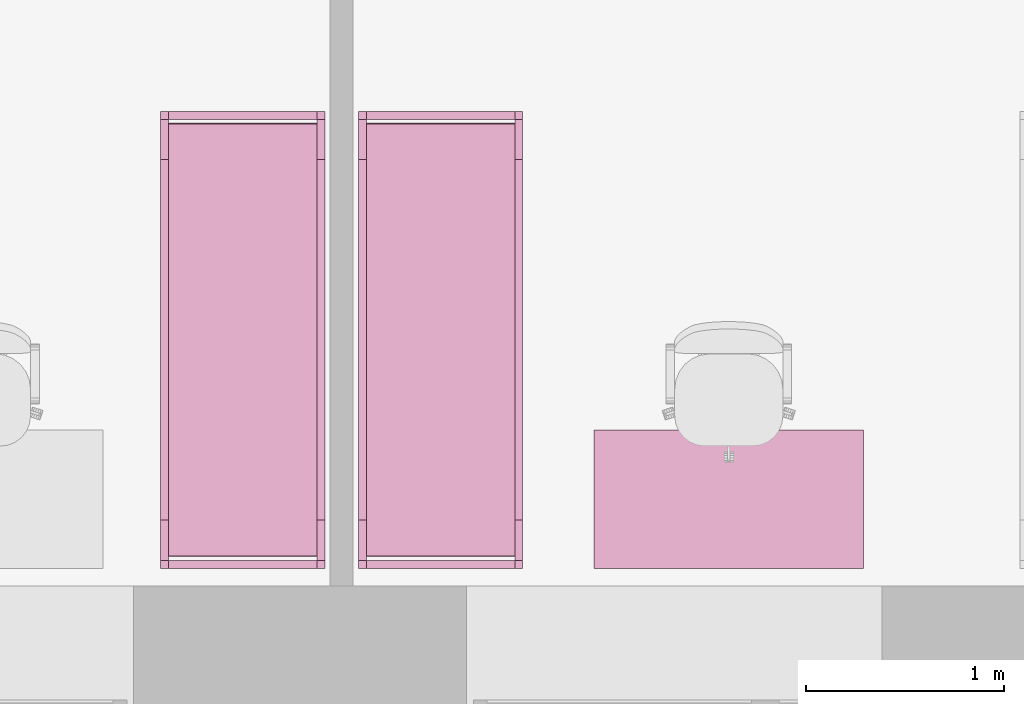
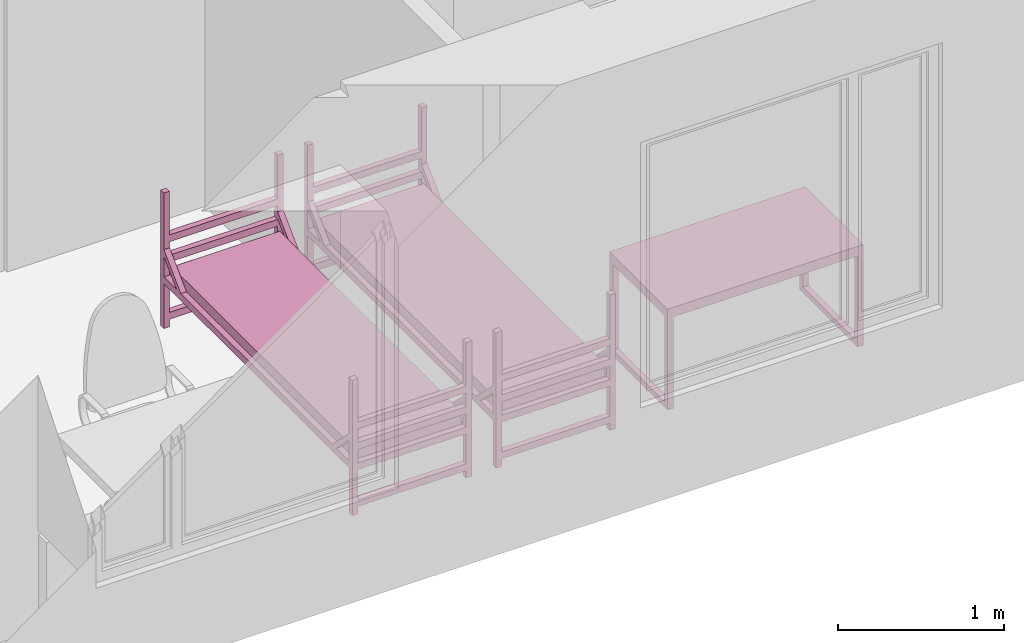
# One storey, part 30 of 46: 3 furnishings.
"""IFC2X3 building model written with IfcOpenShell, lengths in millimetres."""

from ifc_helpers import new_model, entity, si_unit, converted_unit, derived_unit, direction, frame, frame_2d, origin, origin_2d_with_axis, place, context, subcontext, project, spatial, polyline, circle_curve, parameter, trimmed, segment, composite_curve, rectangle, outline, extrude, faceted_brep, source, transform, mapped, material, material_list, type_object, type_shapes, element, save


model = new_model("IFC2X3")

# Units and contexts
model_context = context("Model", 3, precision=0.01, world=origin(), true_north=direction((6.12303176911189e-17, 1.0)))
body_context = subcontext(model_context, "Body", "Model", "MODEL_VIEW")
ifc_project = project(units=[si_unit("LENGTHUNIT", "METRE", prefix="MILLI"), si_unit("AREAUNIT", "SQUARE_METRE"), si_unit("VOLUMEUNIT", "CUBIC_METRE"), converted_unit("PLANEANGLEUNIT", "DEGREE", entity("IfcRatioMeasure", 0.0174532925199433), si_unit("PLANEANGLEUNIT", "RADIAN"), dimensions=[0, 0, 0, 0, 0, 0, 0]), si_unit("MASSUNIT", "GRAM", prefix="KILO"), derived_unit("MASSDENSITYUNIT", [(si_unit("MASSUNIT", "GRAM", prefix="KILO"), 1), (si_unit("LENGTHUNIT", "METRE"), -3)]), si_unit("TIMEUNIT", "SECOND"), si_unit("FREQUENCYUNIT", "HERTZ"), si_unit("THERMODYNAMICTEMPERATUREUNIT", "DEGREE_CELSIUS"), derived_unit("THERMALTRANSMITTANCEUNIT", [(si_unit("MASSUNIT", "GRAM", prefix="KILO"), 1), (si_unit("THERMODYNAMICTEMPERATUREUNIT", "KELVIN"), -1), (si_unit("TIMEUNIT", "SECOND"), -3)]), derived_unit("VOLUMETRICFLOWRATEUNIT", [(si_unit("LENGTHUNIT", "METRE"), 3), (si_unit("TIMEUNIT", "SECOND"), -1)]), si_unit("ELECTRICCURRENTUNIT", "AMPERE"), si_unit("ELECTRICVOLTAGEUNIT", "VOLT"), si_unit("POWERUNIT", "WATT"), si_unit("FORCEUNIT", "NEWTON", prefix="KILO"), si_unit("ILLUMINANCEUNIT", "LUX"), si_unit("LUMINOUSFLUXUNIT", "LUMEN"), si_unit("LUMINOUSINTENSITYUNIT", "CANDELA"), derived_unit("USERDEFINED", [(si_unit("MASSUNIT", "GRAM", prefix="KILO"), -1), (si_unit("LENGTHUNIT", "METRE"), -2), (si_unit("TIMEUNIT", "SECOND"), 3), (si_unit("LUMINOUSFLUXUNIT", "LUMEN"), 1)]), derived_unit("LINEARVELOCITYUNIT", [(si_unit("LENGTHUNIT", "METRE"), 1), (si_unit("TIMEUNIT", "SECOND"), -1)]), si_unit("PRESSUREUNIT", "PASCAL"), derived_unit("USERDEFINED", [(si_unit("LENGTHUNIT", "METRE"), -2), (si_unit("MASSUNIT", "GRAM", prefix="KILO"), 1), (si_unit("TIMEUNIT", "SECOND"), -2)]), derived_unit("LINEARFORCEUNIT", [(si_unit("MASSUNIT", "GRAM", prefix="KILO"), 1), (si_unit("LENGTHUNIT", "METRE"), 1), (si_unit("TIMEUNIT", "SECOND"), -2), (si_unit("LENGTHUNIT", "METRE"), -1)]), derived_unit("PLANARFORCEUNIT", [(si_unit("MASSUNIT", "GRAM", prefix="KILO"), 1), (si_unit("LENGTHUNIT", "METRE"), 1), (si_unit("TIMEUNIT", "SECOND"), -2), (si_unit("LENGTHUNIT", "METRE"), -2)])], contexts=[model_context])

# Site, building, storey, space
site_placement = place(None, origin())
site = spatial("IfcSite", under=ifc_project, at=site_placement, Name="Default", CompositionType="ELEMENT")
building_placement = place(site_placement, origin())
building = spatial("IfcBuilding", under=site, at=building_placement, Name="SMA ARH", CompositionType="ELEMENT")
storey_placement = place(building_placement, origin())
storey = spatial("IfcBuildingStorey", under=building, at=storey_placement, Name="1 Korrus", CompositionType="ELEMENT", Elevation=0.0)
space_1_placement = place(storey_placement, origin())
space_1 = spatial("IfcSpace", under=storey, at=space_1_placement, Name="1-12", CompositionType="ELEMENT", InteriorOrExteriorSpace="INTERNAL")

# Furnishings
ifc_material_1 = material(Name="Madrats")
furniture_type_1 = type_object("IfcFurnitureType", Name="Kasarmu voodi ühekordne 2308x830:Kasarmu voodi ühekordne 2308x830", material=ifc_material_1)
shared_shape_1 = source(origin(), body_context, "Body", "SweptSolid", [
    extrude(rectangle(XDim=39.9999999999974, YDim=750.000000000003, at=frame_2d((-1.35003119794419e-13, -2.8421709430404e-14), x_axis=(1.0, 0.0))), frame((1.68638457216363, -1226.7969571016, 55.0), z_axis=(0.0, 0.0, 1.0), x_axis=(0.0, -1.0, 0.0)), (0.0, 0.0, 1.0), 49.9999999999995),
    extrude(rectangle(XDim=39.9999999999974, YDim=750.000000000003, at=frame_2d((-1.35003119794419e-13, -2.8421709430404e-14), x_axis=(1.0, 0.0))), frame((1.68638457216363, -1226.7969571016, 325.0), z_axis=(0.0, 0.0, 1.0), x_axis=(0.0, -1.0, 0.0)), (0.0, 0.0, 1.0), 49.9999999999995),
    extrude(rectangle(XDim=39.9999999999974, YDim=750.000000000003, at=frame_2d((-1.35003119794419e-13, -2.8421709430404e-14), x_axis=(1.0, 0.0))), frame((1.68638457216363, -1226.7969571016, 475.0), z_axis=(0.0, 0.0, 1.0), x_axis=(0.0, -1.0, 0.0)), (0.0, 0.0, 1.0), 49.9999999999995),
    extrude(rectangle(XDim=39.9999999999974, YDim=750.000000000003, at=frame_2d((-1.35003119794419e-13, -2.8421709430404e-14), x_axis=(1.0, 0.0))), frame((1.68638457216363, -1226.7969571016, 625.0), z_axis=(0.0, 0.0, 1.0), x_axis=(0.0, -1.0, 0.0)), (0.0, 0.0, 1.0), 50.0000000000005),
    extrude(rectangle(XDim=39.9999999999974, YDim=750.000000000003, at=frame_2d((1.35003119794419e-13, -2.8421709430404e-14), x_axis=(1.0, 0.0))), frame((1.68638457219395, 1041.2030428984, 55.0), z_axis=(0.0, 0.0, 1.0), x_axis=(0.0, -1.0, 0.0)), (0.0, 0.0, 1.0), 50.0000000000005),
    extrude(rectangle(XDim=39.9999999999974, YDim=750.000000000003, at=frame_2d((1.35003119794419e-13, -2.8421709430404e-14), x_axis=(1.0, 0.0))), frame((1.68638457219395, 1041.2030428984, 325.0), z_axis=(0.0, 0.0, 1.0), x_axis=(0.0, -1.0, 0.0)), (0.0, 0.0, 1.0), 50.0000000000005),
    extrude(rectangle(XDim=39.9999999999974, YDim=750.000000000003, at=frame_2d((1.35003119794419e-13, -2.8421709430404e-14), x_axis=(1.0, 0.0))), frame((1.68638457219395, 1041.2030428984, 475.0), z_axis=(0.0, 0.0, 1.0), x_axis=(0.0, -1.0, 0.0)), (0.0, 0.0, 1.0), 50.0000000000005),
    extrude(rectangle(XDim=39.9999999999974, YDim=750.000000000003, at=frame_2d((1.35003119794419e-13, -2.8421709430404e-14), x_axis=(1.0, 0.0))), frame((1.68638457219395, 1041.2030428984, 625.0), z_axis=(0.0, 0.0, 1.0), x_axis=(0.0, -1.0, 0.0)), (0.0, 0.0, 1.0), 49.9999999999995),
    extrude(outline(composite_curve([segment(trimmed(circle_curve(frame_2d((1085.0, -40.0), x_axis=(1.0, 0.0)), 10.0), [parameter(270.0)], [parameter(0.0)], True, "PARAMETER"), True, "CONTINUOUS"), segment(polyline([(1095.0, -40.0), (1095.0, 40.0)]), True, "CONTINUOUS"), segment(trimmed(circle_curve(frame_2d((1085.0, 40.0), x_axis=(1.0, 0.0)), 10.0), [parameter(0.0)], [parameter(90.0000000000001)], True, "PARAMETER"), True, "CONTINUOUS"), segment(polyline([(1085.0, 50.0), (-1085.0, 50.0)]), True, "CONTINUOUS"), segment(trimmed(circle_curve(frame_2d((-1085.0, 40.0), x_axis=(1.0, 0.0)), 10.0), [parameter(90.0000000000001)], [parameter(180.0)], True, "PARAMETER"), True, "CONTINUOUS"), segment(polyline([(-1095.0, 40.0), (-1095.0, -40.0)]), True, "CONTINUOUS"), segment(trimmed(circle_curve(frame_2d((-1085.0, -40.0), x_axis=(1.0, 0.0)), 10.0), [parameter(180.0)], [parameter(270.0)], True, "PARAMETER"), True, "CONTINUOUS"), segment(polyline([(-1085.0, -50.0), (1085.0, -50.0)]), True, "CONTINUOUS")], self_intersect=False)), frame((-373.313615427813, -92.7969571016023, 405.0), z_axis=(1.0, 0.0, 0.0), x_axis=(0.0, -1.0, 0.0)), (0.0, 0.0, 1.0), 750.000000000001),
    extrude(outline(polyline([(-1114.0, -100.0), (1114.0, -100.0), (1114.0, -50.0), (961.59199141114, -50.0), (1114.0, 100.0), (1114.0, 150.0), (910.789321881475, -50.0), (-910.789321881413, -50.0), (-1114.0, 150.0), (-1114.0, 100.0), (-961.591991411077, -50.0), (-1114.0, -50.0), (-1114.0, -100.0)])), frame((-413.313615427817, -92.7969571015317, 430.0), z_axis=(1.0, 0.0, 0.0), x_axis=(0.0, 1.0, 0.0)), (0.0, 0.0, 1.0), 39.9999999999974),
    extrude(outline(polyline([(-1114.0, -100.0), (1114.0, -100.0), (1114.0, -50.0), (961.591991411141, -50.0), (1114.0, 100.0), (1114.0, 150.0), (910.789321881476, -50.0), (-910.789321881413, -50.0), (-1114.0, 150.0), (-1114.0, 100.0), (-961.591991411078, -50.0), (-1114.0, -50.0), (-1114.0, -100.0)])), frame((376.686384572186, -92.796957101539, 430.0), z_axis=(1.0, 0.0, 0.0), x_axis=(0.0, 1.0, 0.0)), (0.0, 0.0, 1.0), 39.9999999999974),
    extrude(rectangle(XDim=39.9999999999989, YDim=39.9999999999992, at=frame_2d((-6.75015598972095e-14, 0.0), x_axis=(1.0, 0.0))), frame((396.686384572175, -1226.79695710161, 0.0), z_axis=(0.0, 0.0, 1.0), x_axis=(0.0, 1.0, 0.0)), (0.0, 0.0, 1.0), 995.0),
    extrude(rectangle(XDim=39.9999999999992, YDim=39.9999999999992, at=frame_2d((-1.35003119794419e-13, 0.0), x_axis=(1.0, 0.0))), frame((396.686384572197, 1041.20304289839, 0.0), z_axis=(0.0, 0.0, 1.0), x_axis=(0.0, 1.0, 0.0)), (0.0, 0.0, 1.0), 995.0),
    extrude(rectangle(XDim=40.0000000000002, YDim=39.9999999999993, at=frame_2d((-1.35003119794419e-13, 0.0), x_axis=(1.0, 0.0))), frame((-393.313615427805, 1041.2030428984, 0.0), z_axis=(0.0, 0.0, 1.0), x_axis=(0.0, 1.0, 0.0)), (0.0, 0.0, 1.0), 995.0),
    extrude(rectangle(XDim=39.9999999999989, YDim=39.9999999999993, at=frame_2d((-6.75015598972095e-14, 0.0), x_axis=(1.0, 0.0))), frame((-393.313615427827, -1226.7969571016, 0.0), z_axis=(0.0, 0.0, 1.0), x_axis=(0.0, 1.0, 0.0)), (0.0, 0.0, 1.0), 995.0),
])
type_shapes(furniture_type_1, [shared_shape_1])
furnishing_1_placement = place(space_1_placement, frame((12427.8136154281, 1336.79695710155, 0.0)))
element("IfcFurnishingElement", 1, at=furnishing_1_placement, inside=space_1, type_object=furniture_type_1, material=ifc_material_1, Name="Kasarmu voodi ühekordne 2308x830:Kasarmu voodi ühekordne 2308x830", ObjectType="Kasarmu voodi ühekordne 2308x830:Kasarmu voodi ühekordne 2308x830", context=body_context, shape_type="MappedRepresentation", body=[
    mapped(shared_shape_1, transform((0.0, 0.0, 0.0), scale=1.0)),
])
ifc_material_2 = material(Name="<Unnamed>")
ifc_material_list = material_list([ifc_material_2, ifc_material_2])
furniture_type_2 = type_object("IfcFurnitureType", Name="kirjutuslaud 1360x700mm:kirjutuslaud 1360x700mm", material=ifc_material_list)
shared_shape_2 = source(origin(), body_context, "Body", "Brep", [
    faceted_brep([(680.0, -350.0, 720.0), (680.0, 350.0, 720.0), (680.0, 350.0, 750.0), (680.0, -350.0, 750.0), (-680.0, -350.0, 720.0), (-680.0, -350.0, 750.0), (-680.0, 350.0, 750.0), (-680.0, 350.0, 720.0)], [[[0, 1, 2, 3]], [[4, 5, 6, 7]], [[1, 0, 4, 7]], [[2, 1, 7, 6]], [[3, 2, 6, 5]], [[0, 3, 5, 4]]]),
    faceted_brep([(-640.0, -310.0, 680.0), (-640.0, 310.0, 680.0), (-640.0, 310.0, 720.0), (-640.0, -310.0, 720.0), (-680.0, -350.0, 720.0), (-680.0, 350.0, 720.0), (-680.0, 350.0, 10.0), (-680.0, -350.0, 10.0), (-680.0, 310.0, 680.0), (-680.0, -310.0, 680.0), (-680.0, -310.0, 50.0), (-680.0, 310.0, 50.0), (-640.0, -350.0, 10.0), (-640.0, -350.0, 680.0), (640.0, -350.0, 680.0), (640.0, -350.0, 10.0), (680.0, -350.0, 10.0), (680.0, -350.0, 720.0), (-640.0, 350.0, 10.0), (680.0, 350.0, 720.0), (680.0, 350.0, 10.0), (640.0, 350.0, 10.0), (640.0, 350.0, 680.0), (-640.0, 350.0, 680.0), (640.0, 310.0, 720.0), (640.0, -310.0, 720.0), (-640.0, 310.0, 50.0), (-640.0, -310.0, 50.0), (640.0, -310.0, 680.0), (640.0, 310.0, 680.0), (680.0, 310.0, 680.0), (680.0, 310.0, 50.0), (680.0, -310.0, 50.0), (680.0, -310.0, 680.0), (640.0, -310.0, 50.0), (640.0, 310.0, 50.0)], [[[0, 1, 2, 3]], [[4, 5, 6, 7], [8, 9, 10, 11]], [[4, 7, 12, 13, 14, 15, 16, 17]], [[18, 12, 7, 6]], [[6, 5, 19, 20, 21, 22, 23, 18]], [[19, 5, 4, 17], [2, 24, 25, 3]], [[26, 1, 8, 11]], [[27, 26, 11, 10]], [[0, 27, 10, 9]], [[1, 0, 9, 8]], [[14, 13, 0, 28]], [[24, 2, 1, 29]], [[3, 25, 28, 0]], [[17, 16, 20, 19], [30, 31, 32, 33]], [[21, 15, 14, 28, 34, 35, 29, 22]], [[20, 16, 15, 21]], [[31, 30, 29, 35]], [[32, 31, 35, 34]], [[33, 32, 34, 28]], [[30, 33, 28, 29]], [[29, 28, 25, 24]], [[29, 1, 23, 22]], [[12, 18, 23, 1, 26, 27, 0, 13]]]),
    faceted_brep([(-663.729456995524, -270.466136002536, 0.0), (-659.847171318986, -269.955023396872, 0.0), (-655.964885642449, -270.466136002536, 0.0), (-652.347171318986, -271.964642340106, 0.0), (-649.240569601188, -274.348421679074, 0.0), (-646.85679026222, -277.455023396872, 0.0), (-645.35828392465, -281.072737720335, 0.0), (-644.847171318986, -284.955023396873, 0.0), (-645.35828392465, -288.83730907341, 0.0), (-646.85679026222, -292.455023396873, 0.0), (-649.240569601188, -295.561625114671, 0.0), (-652.347171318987, -297.945404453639, 0.0), (-655.964885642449, -299.443910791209, 0.0), (-659.847171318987, -299.955023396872, 0.0), (-663.729456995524, -299.443910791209, 0.0), (-667.347171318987, -297.945404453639, 0.0), (-670.453773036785, -295.561625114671, 0.0), (-672.837552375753, -292.455023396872, 0.0), (-674.336058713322, -288.83730907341, 0.0), (-674.847171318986, -284.955023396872, 0.0), (-674.336058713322, -281.072737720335, 0.0), (-672.837552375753, -277.455023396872, 0.0), (-670.453773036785, -274.348421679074, 0.0), (-667.347171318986, -271.964642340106, 0.0), (-655.964885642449, -299.443910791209, 10.0), (-652.347171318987, -297.945404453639, 10.0), (-649.240569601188, -295.561625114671, 10.0), (-646.85679026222, -292.455023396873, 10.0), (-645.35828392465, -288.83730907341, 10.0), (-644.847171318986, -284.955023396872, 10.0), (-645.35828392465, -281.072737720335, 10.0), (-646.85679026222, -277.455023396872, 10.0), (-649.240569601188, -274.348421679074, 10.0), (-652.347171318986, -271.964642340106, 10.0), (-655.964885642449, -270.466136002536, 10.0), (-659.847171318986, -269.955023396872, 10.0), (-663.729456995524, -270.466136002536, 10.0), (-667.347171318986, -271.964642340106, 10.0), (-670.453773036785, -274.348421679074, 10.0), (-672.837552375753, -277.455023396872, 10.0), (-674.336058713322, -281.072737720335, 10.0), (-674.847171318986, -284.955023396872, 10.0), (-674.336058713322, -288.83730907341, 10.0), (-672.837552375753, -292.455023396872, 10.0), (-670.453773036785, -295.561625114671, 10.0), (-667.347171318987, -297.945404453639, 10.0), (-663.729456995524, -299.443910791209, 10.0), (-659.847171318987, -299.955023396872, 10.0)], [[[0, 1, 2, 3, 4, 5, 6, 7, 8, 9, 10, 11, 12, 13, 14, 15, 16, 17, 18, 19, 20, 21, 22, 23]], [[24, 25, 26, 27, 28, 29, 30, 31, 32, 33, 34, 35, 36, 37, 38, 39, 40, 41, 42, 43, 44, 45, 46, 47]], [[18, 42, 41, 19]], [[17, 43, 42, 18]], [[45, 44, 16, 15]], [[17, 16, 44, 43]], [[46, 45, 15, 14]], [[47, 46, 14, 13]], [[12, 24, 47, 13]], [[11, 25, 24, 12]], [[27, 26, 10, 9]], [[11, 10, 26, 25]], [[28, 27, 9, 8]], [[29, 28, 8, 7]], [[6, 30, 29, 7]], [[5, 31, 30, 6]], [[33, 32, 4, 3]], [[5, 4, 32, 31]], [[34, 33, 3, 2]], [[35, 34, 2, 1]], [[0, 36, 35, 1]], [[23, 37, 36, 0]], [[39, 38, 22, 21]], [[23, 22, 38, 37]], [[40, 39, 21, 20]], [[41, 40, 20, 19]]]),
    faceted_brep([(-655.964885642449, 270.466136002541, 10.0), (-652.347171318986, 271.964642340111, 10.0), (-649.240569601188, 274.348421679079, 10.0), (-646.85679026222, 277.455023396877, 10.0), (-645.35828392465, 281.07273772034, 10.0), (-644.847171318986, 284.955023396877, 10.0), (-645.35828392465, 288.837309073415, 10.0), (-646.85679026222, 292.455023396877, 10.0), (-649.240569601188, 295.561625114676, 10.0), (-652.347171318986, 297.945404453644, 10.0), (-655.964885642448, 299.443910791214, 10.0), (-659.847171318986, 299.955023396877, 10.0), (-663.729456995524, 299.443910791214, 10.0), (-667.347171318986, 297.945404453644, 10.0), (-670.453773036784, 295.561625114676, 10.0), (-672.837552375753, 292.455023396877, 10.0), (-674.336058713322, 288.837309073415, 10.0), (-674.847171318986, 284.955023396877, 10.0), (-674.336058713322, 281.07273772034, 10.0), (-672.837552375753, 277.455023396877, 10.0), (-670.453773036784, 274.348421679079, 10.0), (-667.347171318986, 271.964642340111, 10.0), (-663.729456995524, 270.466136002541, 10.0), (-659.847171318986, 269.955023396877, 10.0), (-655.964885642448, 299.443910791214, 0.0), (-652.347171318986, 297.945404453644, 0.0), (-649.240569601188, 295.561625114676, 0.0), (-646.85679026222, 292.455023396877, 0.0), (-645.35828392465, 288.837309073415, 0.0), (-644.847171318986, 284.955023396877, 0.0), (-645.35828392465, 281.07273772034, 0.0), (-646.85679026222, 277.455023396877, 0.0), (-649.240569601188, 274.348421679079, 0.0), (-652.347171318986, 271.964642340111, 0.0), (-655.964885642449, 270.466136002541, 0.0), (-659.847171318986, 269.955023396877, 0.0), (-663.729456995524, 270.466136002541, 0.0), (-667.347171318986, 271.964642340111, 0.0), (-670.453773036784, 274.348421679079, 0.0), (-672.837552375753, 277.455023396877, 0.0), (-674.336058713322, 281.07273772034, 0.0), (-674.847171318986, 284.955023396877, 0.0), (-674.336058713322, 288.837309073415, 0.0), (-672.837552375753, 292.455023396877, 0.0), (-670.453773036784, 295.561625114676, 0.0), (-667.347171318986, 297.945404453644, 0.0), (-663.729456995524, 299.443910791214, 0.0), (-659.847171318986, 299.955023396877, 0.0)], [[[0, 1, 2, 3, 4, 5, 6, 7, 8, 9, 10, 11, 12, 13, 14, 15, 16, 17, 18, 19, 20, 21, 22, 23]], [[24, 25, 26, 27, 28, 29, 30, 31, 32, 33, 34, 35, 36, 37, 38, 39, 40, 41, 42, 43, 44, 45, 46, 47]], [[40, 18, 17, 41]], [[39, 19, 18, 40]], [[21, 20, 38, 37]], [[39, 38, 20, 19]], [[22, 21, 37, 36]], [[23, 22, 36, 35]], [[34, 0, 23, 35]], [[33, 1, 0, 34]], [[3, 2, 32, 31]], [[33, 32, 2, 1]], [[4, 3, 31, 30]], [[5, 4, 30, 29]], [[28, 6, 5, 29]], [[27, 7, 6, 28]], [[9, 8, 26, 25]], [[27, 26, 8, 7]], [[10, 9, 25, 24]], [[11, 10, 24, 47]], [[46, 12, 11, 47]], [[45, 13, 12, 46]], [[15, 14, 44, 43]], [[45, 44, 14, 13]], [[16, 15, 43, 42]], [[17, 16, 42, 41]]]),
    faceted_brep([(656.270543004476, -270.466136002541, 0.0), (660.152828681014, -269.955023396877, 0.0), (664.035114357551, -270.466136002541, 0.0), (667.652828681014, -271.96464234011, 0.0), (670.759430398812, -274.348421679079, 0.0), (673.14320973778, -277.455023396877, 0.0), (674.64171607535, -281.072737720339, 0.0), (675.152828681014, -284.955023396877, 0.0), (674.64171607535, -288.837309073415, 0.0), (673.14320973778, -292.455023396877, 0.0), (670.759430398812, -295.561625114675, 0.0), (667.652828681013, -297.945404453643, 0.0), (664.035114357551, -299.443910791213, 0.0), (660.152828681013, -299.955023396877, 0.0), (656.270543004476, -299.443910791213, 0.0), (652.652828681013, -297.945404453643, 0.0), (649.546226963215, -295.561625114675, 0.0), (647.162447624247, -292.455023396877, 0.0), (645.663941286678, -288.837309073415, 0.0), (645.152828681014, -284.955023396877, 0.0), (645.663941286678, -281.072737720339, 0.0), (647.162447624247, -277.455023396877, 0.0), (649.546226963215, -274.348421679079, 0.0), (652.652828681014, -271.96464234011, 0.0), (664.035114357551, -299.443910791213, 10.0), (667.652828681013, -297.945404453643, 10.0), (670.759430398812, -295.561625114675, 10.0), (673.14320973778, -292.455023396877, 10.0), (674.64171607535, -288.837309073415, 10.0), (675.152828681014, -284.955023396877, 10.0), (674.64171607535, -281.072737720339, 10.0), (673.14320973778, -277.455023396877, 10.0), (670.759430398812, -274.348421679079, 10.0), (667.652828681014, -271.96464234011, 10.0), (664.035114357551, -270.466136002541, 10.0), (660.152828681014, -269.955023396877, 10.0), (656.270543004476, -270.466136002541, 10.0), (652.652828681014, -271.96464234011, 10.0), (649.546226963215, -274.348421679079, 10.0), (647.162447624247, -277.455023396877, 10.0), (645.663941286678, -281.072737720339, 10.0), (645.152828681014, -284.955023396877, 10.0), (645.663941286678, -288.837309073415, 10.0), (647.162447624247, -292.455023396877, 10.0), (649.546226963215, -295.561625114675, 10.0), (652.652828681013, -297.945404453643, 10.0), (656.270543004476, -299.443910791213, 10.0), (660.152828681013, -299.955023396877, 10.0)], [[[0, 1, 2, 3, 4, 5, 6, 7, 8, 9, 10, 11, 12, 13, 14, 15, 16, 17, 18, 19, 20, 21, 22, 23]], [[24, 25, 26, 27, 28, 29, 30, 31, 32, 33, 34, 35, 36, 37, 38, 39, 40, 41, 42, 43, 44, 45, 46, 47]], [[18, 42, 41, 19]], [[17, 43, 42, 18]], [[45, 44, 16, 15]], [[17, 16, 44, 43]], [[46, 45, 15, 14]], [[47, 46, 14, 13]], [[12, 24, 47, 13]], [[11, 25, 24, 12]], [[27, 26, 10, 9]], [[11, 10, 26, 25]], [[28, 27, 9, 8]], [[29, 28, 8, 7]], [[6, 30, 29, 7]], [[5, 31, 30, 6]], [[33, 32, 4, 3]], [[5, 4, 32, 31]], [[34, 33, 3, 2]], [[35, 34, 2, 1]], [[0, 36, 35, 1]], [[23, 37, 36, 0]], [[39, 38, 22, 21]], [[23, 22, 38, 37]], [[40, 39, 21, 20]], [[41, 40, 20, 19]]]),
    faceted_brep([(664.035114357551, 270.466136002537, 10.0), (667.652828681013, 271.964642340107, 10.0), (670.759430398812, 274.348421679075, 10.0), (673.14320973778, 277.455023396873, 10.0), (674.64171607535, 281.072737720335, 10.0), (675.152828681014, 284.955023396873, 10.0), (674.64171607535, 288.837309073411, 10.0), (673.14320973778, 292.455023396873, 10.0), (670.759430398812, 295.561625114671, 10.0), (667.652828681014, 297.94540445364, 10.0), (664.035114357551, 299.443910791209, 10.0), (660.152828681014, 299.955023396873, 10.0), (656.270543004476, 299.443910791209, 10.0), (652.652828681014, 297.94540445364, 10.0), (649.546226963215, 295.561625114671, 10.0), (647.162447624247, 292.455023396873, 10.0), (645.663941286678, 288.837309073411, 10.0), (645.152828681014, 284.955023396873, 10.0), (645.663941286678, 281.072737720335, 10.0), (647.162447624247, 277.455023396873, 10.0), (649.546226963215, 274.348421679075, 10.0), (652.652828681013, 271.964642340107, 10.0), (656.270543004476, 270.466136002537, 10.0), (660.152828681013, 269.955023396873, 10.0), (664.035114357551, 299.443910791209, 0.0), (667.652828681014, 297.94540445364, 0.0), (670.759430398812, 295.561625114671, 0.0), (673.14320973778, 292.455023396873, 0.0), (674.64171607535, 288.837309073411, 0.0), (675.152828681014, 284.955023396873, 0.0), (674.64171607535, 281.072737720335, 0.0), (673.14320973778, 277.455023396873, 0.0), (670.759430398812, 274.348421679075, 0.0), (667.652828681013, 271.964642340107, 0.0), (664.035114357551, 270.466136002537, 0.0), (660.152828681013, 269.955023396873, 0.0), (656.270543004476, 270.466136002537, 0.0), (652.652828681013, 271.964642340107, 0.0), (649.546226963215, 274.348421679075, 0.0), (647.162447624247, 277.455023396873, 0.0), (645.663941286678, 281.072737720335, 0.0), (645.152828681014, 284.955023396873, 0.0), (645.663941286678, 288.837309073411, 0.0), (647.162447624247, 292.455023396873, 0.0), (649.546226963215, 295.561625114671, 0.0), (652.652828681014, 297.94540445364, 0.0), (656.270543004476, 299.443910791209, 0.0), (660.152828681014, 299.955023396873, 0.0)], [[[0, 1, 2, 3, 4, 5, 6, 7, 8, 9, 10, 11, 12, 13, 14, 15, 16, 17, 18, 19, 20, 21, 22, 23]], [[24, 25, 26, 27, 28, 29, 30, 31, 32, 33, 34, 35, 36, 37, 38, 39, 40, 41, 42, 43, 44, 45, 46, 47]], [[40, 18, 17, 41]], [[39, 19, 18, 40]], [[21, 20, 38, 37]], [[39, 38, 20, 19]], [[22, 21, 37, 36]], [[23, 22, 36, 35]], [[34, 0, 23, 35]], [[33, 1, 0, 34]], [[3, 2, 32, 31]], [[33, 32, 2, 1]], [[4, 3, 31, 30]], [[5, 4, 30, 29]], [[28, 6, 5, 29]], [[27, 7, 6, 28]], [[9, 8, 26, 25]], [[27, 26, 8, 7]], [[10, 9, 25, 24]], [[11, 10, 24, 47]], [[46, 12, 11, 47]], [[45, 13, 12, 46]], [[15, 14, 44, 43]], [[45, 44, 14, 13]], [[16, 15, 43, 42]], [[17, 16, 42, 41]]]),
])
type_shapes(furniture_type_2, [shared_shape_2])
furnishing_2_placement = place(space_1_placement, frame((13885.5000000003, 440.0, 0.0)))
element("IfcFurnishingElement", 2, at=furnishing_2_placement, inside=space_1, type_object=furniture_type_2, Name="kirjutuslaud 1360x700mm:kirjutuslaud 1360x700mm", ObjectType="kirjutuslaud 1360x700mm:kirjutuslaud 1360x700mm", context=body_context, shape_type="MappedRepresentation", body=[
    mapped(shared_shape_2, transform((0.0, 0.0, 0.0), scale=1.0)),
])

# Space
space_2_placement = place(storey_placement, origin())
space_2 = spatial("IfcSpace", under=storey, at=space_2_placement, Name="1-13", CompositionType="ELEMENT", InteriorOrExteriorSpace="INTERNAL")

# Furnishing
furniture_type_3 = type_object("IfcFurnitureType", Name="Kasarmu voodi ühekordne 2308x830:Kasarmu voodi ühekordne 2308x830", material=ifc_material_1)
shared_shape_3 = source(origin(), body_context, "Body", "SweptSolid", [
    extrude(rectangle(XDim=750.000000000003, YDim=39.9999999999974, at=frame_2d((0.0, 1.35003119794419e-13), x_axis=(1.0, 0.0))), frame((1.68638457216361, 1226.7969571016, 55.0)), (0.0, 0.0, 1.0), 49.9999999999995),
    extrude(rectangle(XDim=750.000000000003, YDim=39.9999999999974, at=frame_2d((0.0, 1.35003119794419e-13), x_axis=(1.0, 0.0))), frame((1.68638457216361, 1226.7969571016, 325.0)), (0.0, 0.0, 1.0), 49.9999999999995),
    extrude(rectangle(XDim=750.000000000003, YDim=39.9999999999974, at=frame_2d((0.0, 1.35003119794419e-13), x_axis=(1.0, 0.0))), frame((1.68638457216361, 1226.7969571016, 475.0)), (0.0, 0.0, 1.0), 49.9999999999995),
    extrude(rectangle(XDim=750.000000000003, YDim=39.9999999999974, at=frame_2d((0.0, 1.35003119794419e-13), x_axis=(1.0, 0.0))), frame((1.68638457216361, 1226.7969571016, 625.0)), (0.0, 0.0, 1.0), 50.0000000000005),
    extrude(rectangle(XDim=750.000000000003, YDim=39.9999999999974, at=origin_2d_with_axis()), frame((1.68638457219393, -1041.2030428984, 55.0)), (0.0, 0.0, 1.0), 50.0000000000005),
    extrude(rectangle(XDim=750.000000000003, YDim=39.9999999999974, at=origin_2d_with_axis()), frame((1.68638457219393, -1041.2030428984, 325.0)), (0.0, 0.0, 1.0), 50.0000000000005),
    extrude(rectangle(XDim=750.000000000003, YDim=39.9999999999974, at=origin_2d_with_axis()), frame((1.68638457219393, -1041.2030428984, 475.0)), (0.0, 0.0, 1.0), 50.0000000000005),
    extrude(rectangle(XDim=750.000000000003, YDim=39.9999999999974, at=origin_2d_with_axis()), frame((1.68638457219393, -1041.2030428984, 625.0)), (0.0, 0.0, 1.0), 49.9999999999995),
    extrude(outline(composite_curve([segment(polyline([(-1085.0, -50.0), (1085.0, -50.0)]), True, "CONTINUOUS"), segment(trimmed(circle_curve(frame_2d((1085.0, -40.0), x_axis=(-1.0, 0.0)), 10.0), [parameter(90.0000000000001)], [parameter(180.0)], True, "PARAMETER"), True, "CONTINUOUS"), segment(polyline([(1095.0, -40.0), (1095.0, 40.0)]), True, "CONTINUOUS"), segment(trimmed(circle_curve(frame_2d((1085.0, 40.0), x_axis=(-1.0, 0.0)), 10.0), [parameter(180.0)], [parameter(270.0)], True, "PARAMETER"), True, "CONTINUOUS"), segment(polyline([(1085.0, 50.0), (-1085.0, 50.0)]), True, "CONTINUOUS"), segment(trimmed(circle_curve(frame_2d((-1085.0, 40.0), x_axis=(-1.0, 0.0)), 10.0), [parameter(270.0)], [parameter(0.0)], True, "PARAMETER"), True, "CONTINUOUS"), segment(polyline([(-1095.0, 40.0), (-1095.0, -40.0)]), True, "CONTINUOUS"), segment(trimmed(circle_curve(frame_2d((-1085.0, -40.0), x_axis=(-1.0, 0.0)), 10.0), [parameter(0.0)], [parameter(90.0000000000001)], True, "PARAMETER"), True, "CONTINUOUS")], self_intersect=False)), frame((-373.313615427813, 92.7969571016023, 405.0), z_axis=(1.0, 0.0, 0.0), x_axis=(0.0, -1.0, 0.0)), (0.0, 0.0, 1.0), 750.000000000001),
    extrude(outline(polyline([(-100.0, -1114.0), (-50.0, -1114.0), (-50.0, -961.591991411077), (100.0, -1114.0), (150.0, -1114.0), (-50.0, -910.789321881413), (-50.0, 910.789321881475), (150.0, 1114.0), (100.0, 1114.0), (-50.0, 961.591991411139), (-50.0, 1114.0), (-100.0, 1114.0), (-100.0, -1114.0)])), frame((-413.313615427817, 92.7969571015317, 430.0), z_axis=(1.0, 0.0, 0.0), x_axis=(0.0, 0.0, 1.0)), (0.0, 0.0, 1.0), 39.9999999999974),
    extrude(outline(polyline([(-100.0, -1114.0), (-50.0, -1114.0), (-50.0, -961.591991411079), (100.0, -1114.0), (150.0, -1114.0), (-50.0, -910.789321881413), (-50.0, 910.789321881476), (150.0, 1114.0), (100.0, 1114.0), (-50.0, 961.591991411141), (-50.0, 1114.0), (-100.0, 1114.0), (-100.0, -1114.0)])), frame((376.686384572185, 92.796957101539, 430.0), z_axis=(1.0, 0.0, 0.0), x_axis=(0.0, 0.0, 1.0)), (0.0, 0.0, 1.0), 39.9999999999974),
    extrude(rectangle(XDim=39.9999999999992, YDim=39.9999999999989, at=frame_2d((0.0, -6.75015598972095e-14), x_axis=(1.0, 0.0))), frame((396.686384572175, 1226.79695710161, 0.0), z_axis=(0.0, 0.0, 1.0), x_axis=(-1.0, 0.0, 0.0)), (0.0, 0.0, 1.0), 995.0),
    extrude(rectangle(XDim=39.9999999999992, YDim=39.9999999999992, at=origin_2d_with_axis()), frame((396.686384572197, -1041.20304289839, 0.0), z_axis=(0.0, 0.0, 1.0), x_axis=(-1.0, 0.0, 0.0)), (0.0, 0.0, 1.0), 995.0),
    extrude(rectangle(XDim=39.9999999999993, YDim=40.0000000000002, at=origin_2d_with_axis()), frame((-393.313615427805, -1041.2030428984, 0.0), z_axis=(0.0, 0.0, 1.0), x_axis=(-1.0, 0.0, 0.0)), (0.0, 0.0, 1.0), 995.0),
    extrude(rectangle(XDim=39.9999999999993, YDim=39.9999999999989, at=frame_2d((0.0, -6.75015598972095e-14), x_axis=(1.0, 0.0))), frame((-393.313615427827, 1226.7969571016, 0.0), z_axis=(0.0, 0.0, 1.0), x_axis=(-1.0, 0.0, 0.0)), (0.0, 0.0, 1.0), 995.0),
])
type_shapes(furniture_type_3, [shared_shape_3])
furnishing_3_placement = place(space_2_placement, frame((11432.1863845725, 1336.79695710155, 0.0), z_axis=(0.0, 0.0, 1.0), x_axis=(-1.0, 0.0, 0.0)))
element("IfcFurnishingElement", 3, at=furnishing_3_placement, inside=space_2, type_object=furniture_type_3, material=ifc_material_1, Name="Kasarmu voodi ühekordne 2308x830:Kasarmu voodi ühekordne 2308x830", ObjectType="Kasarmu voodi ühekordne 2308x830:Kasarmu voodi ühekordne 2308x830", context=body_context, shape_type="MappedRepresentation", body=[
    mapped(shared_shape_3, transform((0.0, 0.0, 0.0), scale=1.0)),
])

save(model, "model.ifc")
